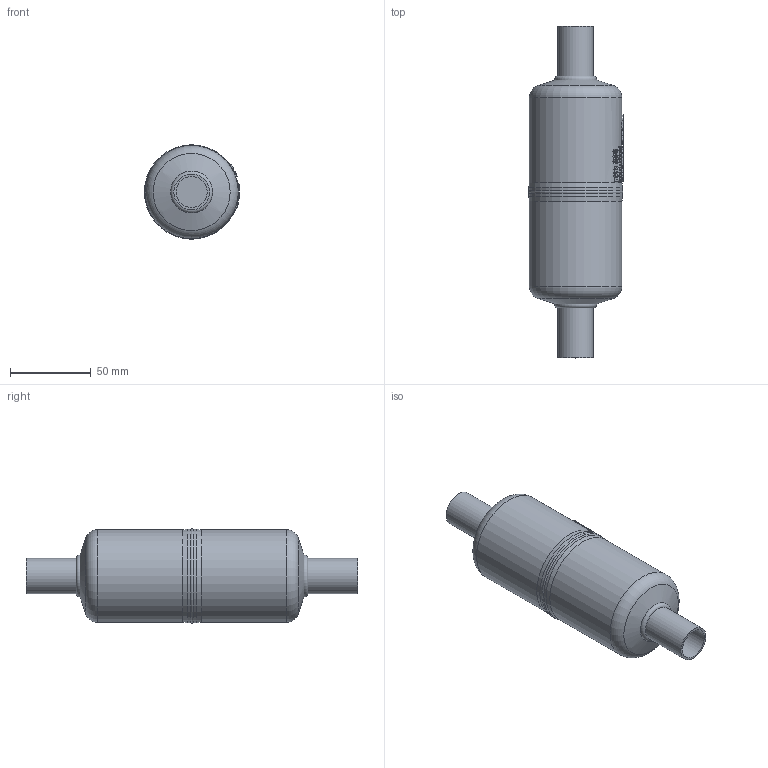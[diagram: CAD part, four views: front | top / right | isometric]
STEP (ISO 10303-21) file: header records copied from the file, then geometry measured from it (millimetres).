
FILE_DESCRIPTION(/* description */ (''),/* implementation_level */ '2;1');
FILE_NAME(/* name */ 'P:\GD\GD-3_4\GD-3_4.stp',/* time_stamp */ '2017-10-05T08:24:35+02:00',/* author */ ('neufeld'),/* organization */ (''),/* preprocessor_version */ 'ST-DEVELOPER v16.1',/* originating_system */ 'Autodesk Inventor 2016',/* authorisation */ '');
FILE_SCHEMA (('AUTOMOTIVE_DESIGN { 1 0 10303 214 3 1 1 }'));
Length unit declared in the file: millimetre
Products named in the file (2): GD-3_4; GD-3_4_1
Assembly tree (1 placements, depth 2):
  GD-3_4_1
    GD-3_4
Bounding box: 58.97 x 205.8 x 58.53 mm (x, y, z)
Volume: 363421.2 mm3; surface area: 35274.1 mm2
Topology: 1 solids, 1 shells, 1130 faces, 3091 edges, 2058 vertices
Faces by surface type: plane 623, bspline 399, cylinder 99, torus 7, sphere 2
Full cylindrical faces by diameter (mm): 19.3 x2, 22 x2, 57.4 x2, 58 x2
Entity records: 43682 total; most frequent: CARTESIAN_POINT 16926, ORIENTED_EDGE 6148, DIRECTION 4614, EDGE_CURVE 3074, VERTEX_POINT 2056, AXIS2_PLACEMENT_3D 1604, LINE 1406, VECTOR 1406
